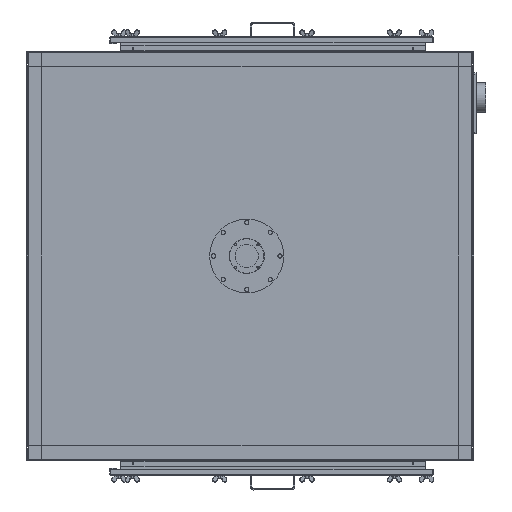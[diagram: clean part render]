
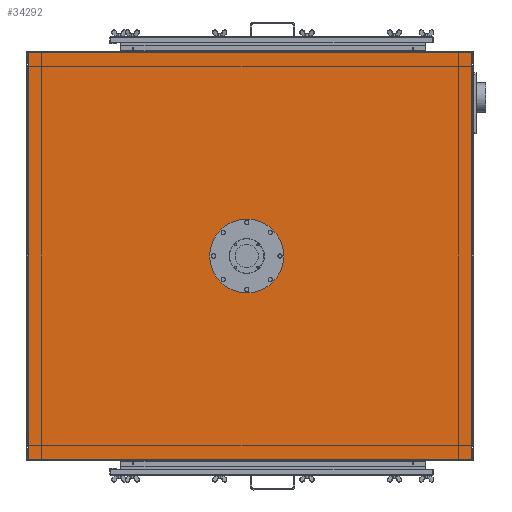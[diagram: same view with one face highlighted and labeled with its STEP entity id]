
A CAD part, left-side view. The second image highlights one B-rep face of the part: STEP entity #34292.
In plain terms, the highlighted planar face has unit normal (-1, 0, 0).
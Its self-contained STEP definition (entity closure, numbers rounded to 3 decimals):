
#851=LINE('',#49640,#4055);
#866=LINE('',#49679,#4070);
#867=LINE('',#49683,#4071);
#868=LINE('',#49684,#4072);
#4055=VECTOR('',#39983,1398.);
#4070=VECTOR('',#40016,1524.);
#4071=VECTOR('',#40021,1524.);
#4072=VECTOR('',#40022,1398.);
#7527=FACE_BOUND('',#10071,.T.);
#7528=FACE_BOUND('',#10072,.T.);
#7529=FACE_BOUND('',#10073,.T.);
#7530=FACE_BOUND('',#10074,.T.);
#7531=FACE_BOUND('',#10075,.T.);
#7532=FACE_BOUND('',#10076,.T.);
#7533=FACE_BOUND('',#10077,.T.);
#7534=FACE_BOUND('',#10078,.T.);
#7535=FACE_BOUND('',#10079,.T.);
#8059=FACE_OUTER_BOUND('',#10070,.T.);
#10070=EDGE_LOOP('',(#21860,#21861,#21862,#21863));
#10071=EDGE_LOOP('',(#21864));
#10072=EDGE_LOOP('',(#21865));
#10073=EDGE_LOOP('',(#21866));
#10074=EDGE_LOOP('',(#21867));
#10075=EDGE_LOOP('',(#21868));
#10076=EDGE_LOOP('',(#21869));
#10077=EDGE_LOOP('',(#21870));
#10078=EDGE_LOOP('',(#21871));
#10079=EDGE_LOOP('',(#21872));
#12423=CIRCLE('',#36359,7.25);
#12424=CIRCLE('',#36360,7.25);
#12425=CIRCLE('',#36361,7.25);
#12426=CIRCLE('',#36362,7.25);
#12427=CIRCLE('',#36363,7.25);
#12428=CIRCLE('',#36364,7.25);
#12429=CIRCLE('',#36365,7.25);
#12430=CIRCLE('',#36366,7.25);
#12431=CIRCLE('',#36367,60.);
#13687=VERTEX_POINT('',#49632);
#13690=VERTEX_POINT('',#49638);
#13700=VERTEX_POINT('',#49662);
#13706=VERTEX_POINT('',#49682);
#13707=VERTEX_POINT('',#49685);
#13708=VERTEX_POINT('',#49687);
#13709=VERTEX_POINT('',#49689);
#13710=VERTEX_POINT('',#49691);
#13711=VERTEX_POINT('',#49693);
#13712=VERTEX_POINT('',#49695);
#13713=VERTEX_POINT('',#49697);
#13714=VERTEX_POINT('',#49699);
#13715=VERTEX_POINT('',#49701);
#16879=EDGE_CURVE('',#13687,#13690,#851,.T.);
#16898=EDGE_CURVE('',#13690,#13700,#866,.T.);
#16900=EDGE_CURVE('',#13706,#13687,#867,.T.);
#16901=EDGE_CURVE('',#13700,#13706,#868,.T.);
#16902=EDGE_CURVE('',#13707,#13707,#12423,.T.);
#16903=EDGE_CURVE('',#13708,#13708,#12424,.T.);
#16904=EDGE_CURVE('',#13709,#13709,#12425,.T.);
#16905=EDGE_CURVE('',#13710,#13710,#12426,.T.);
#16906=EDGE_CURVE('',#13711,#13711,#12427,.T.);
#16907=EDGE_CURVE('',#13712,#13712,#12428,.T.);
#16908=EDGE_CURVE('',#13713,#13713,#12429,.T.);
#16909=EDGE_CURVE('',#13714,#13714,#12430,.T.);
#16910=EDGE_CURVE('',#13715,#13715,#12431,.T.);
#21860=ORIENTED_EDGE('',*,*,#16900,.T.);
#21861=ORIENTED_EDGE('',*,*,#16879,.T.);
#21862=ORIENTED_EDGE('',*,*,#16898,.T.);
#21863=ORIENTED_EDGE('',*,*,#16901,.T.);
#21864=ORIENTED_EDGE('',*,*,#16902,.T.);
#21865=ORIENTED_EDGE('',*,*,#16903,.T.);
#21866=ORIENTED_EDGE('',*,*,#16904,.T.);
#21867=ORIENTED_EDGE('',*,*,#16905,.T.);
#21868=ORIENTED_EDGE('',*,*,#16906,.T.);
#21869=ORIENTED_EDGE('',*,*,#16907,.T.);
#21870=ORIENTED_EDGE('',*,*,#16908,.T.);
#21871=ORIENTED_EDGE('',*,*,#16909,.T.);
#21872=ORIENTED_EDGE('',*,*,#16910,.T.);
#30959=PLANE('',#36358);
#34292=ADVANCED_FACE('',(#8059,#7527,#7528,#7529,#7530,#7531,#7532,#7533,
#7534,#7535),#30959,.F.);
#36358=AXIS2_PLACEMENT_3D('',#49681,#40019,#40020);
#36359=AXIS2_PLACEMENT_3D('',#49686,#40023,#40024);
#36360=AXIS2_PLACEMENT_3D('',#49688,#40025,#40026);
#36361=AXIS2_PLACEMENT_3D('',#49690,#40027,#40028);
#36362=AXIS2_PLACEMENT_3D('',#49692,#40029,#40030);
#36363=AXIS2_PLACEMENT_3D('',#49694,#40031,#40032);
#36364=AXIS2_PLACEMENT_3D('',#49696,#40033,#40034);
#36365=AXIS2_PLACEMENT_3D('',#49698,#40035,#40036);
#36366=AXIS2_PLACEMENT_3D('',#49700,#40037,#40038);
#36367=AXIS2_PLACEMENT_3D('',#49702,#40039,#40040);
#39983=DIRECTION('',(0.,0.,1.));
#40016=DIRECTION('',(0.,1.,0.));
#40019=DIRECTION('center_axis',(1.,0.,0.));
#40020=DIRECTION('ref_axis',(0.,-1.,0.));
#40021=DIRECTION('',(0.,-1.,0.));
#40022=DIRECTION('',(0.,0.,-1.));
#40023=DIRECTION('center_axis',(1.,0.,0.));
#40024=DIRECTION('ref_axis',(0.,-1.,0.));
#40025=DIRECTION('center_axis',(1.,0.,0.));
#40026=DIRECTION('ref_axis',(0.,-1.,0.));
#40027=DIRECTION('center_axis',(1.,0.,0.));
#40028=DIRECTION('ref_axis',(0.,-1.,0.));
#40029=DIRECTION('center_axis',(1.,0.,0.));
#40030=DIRECTION('ref_axis',(0.,-1.,0.));
#40031=DIRECTION('center_axis',(1.,0.,0.));
#40032=DIRECTION('ref_axis',(0.,-1.,0.));
#40033=DIRECTION('center_axis',(1.,0.,0.));
#40034=DIRECTION('ref_axis',(0.,-1.,0.));
#40035=DIRECTION('center_axis',(1.,0.,0.));
#40036=DIRECTION('ref_axis',(0.,-1.,0.));
#40037=DIRECTION('center_axis',(1.,0.,0.));
#40038=DIRECTION('ref_axis',(0.,-1.,0.));
#40039=DIRECTION('center_axis',(1.,0.,0.));
#40040=DIRECTION('ref_axis',(0.,-1.,0.));
#49632=CARTESIAN_POINT('',(261.319,-832.732,-845.606));
#49638=CARTESIAN_POINT('',(261.319,-832.732,552.394));
#49640=CARTESIAN_POINT('',(261.319,-832.732,-847.606));
#49662=CARTESIAN_POINT('',(261.319,691.268,552.394));
#49679=CARTESIAN_POINT('',(261.319,-451.732,552.394));
#49681=CARTESIAN_POINT('Origin',(261.319,-70.732,-146.606));
#49682=CARTESIAN_POINT('',(261.319,691.268,-845.606));
#49683=CARTESIAN_POINT('',(261.319,310.268,-845.606));
#49684=CARTESIAN_POINT('',(261.319,691.268,554.394));
#49685=CARTESIAN_POINT('',(261.319,-66.982,-261.106));
#49686=CARTESIAN_POINT('Origin',(261.319,-59.732,-261.106));
#49687=CARTESIAN_POINT('',(261.319,-181.482,-146.606));
#49688=CARTESIAN_POINT('Origin',(261.319,-174.232,-146.606));
#49689=CARTESIAN_POINT('',(261.319,-66.982,-32.106));
#49690=CARTESIAN_POINT('Origin',(261.319,-59.732,-32.106));
#49691=CARTESIAN_POINT('',(261.319,47.518,-146.606));
#49692=CARTESIAN_POINT('Origin',(261.319,54.768,-146.606));
#49693=CARTESIAN_POINT('',(261.319,13.982,-65.643));
#49694=CARTESIAN_POINT('Origin',(261.319,21.232,-65.643));
#49695=CARTESIAN_POINT('',(261.319,-147.946,-65.643));
#49696=CARTESIAN_POINT('Origin',(261.319,-140.696,-65.643));
#49697=CARTESIAN_POINT('',(261.319,-147.946,-227.57));
#49698=CARTESIAN_POINT('Origin',(261.319,-140.696,-227.57));
#49699=CARTESIAN_POINT('',(261.319,13.982,-227.57));
#49700=CARTESIAN_POINT('Origin',(261.319,21.232,-227.57));
#49701=CARTESIAN_POINT('',(261.319,-119.732,-146.606));
#49702=CARTESIAN_POINT('Origin',(261.319,-59.732,-146.606));
